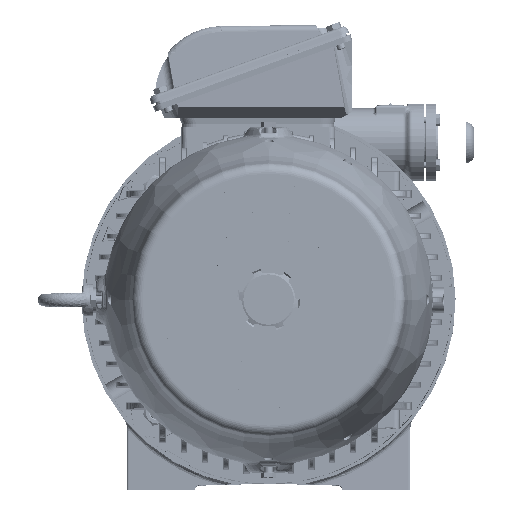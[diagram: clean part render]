
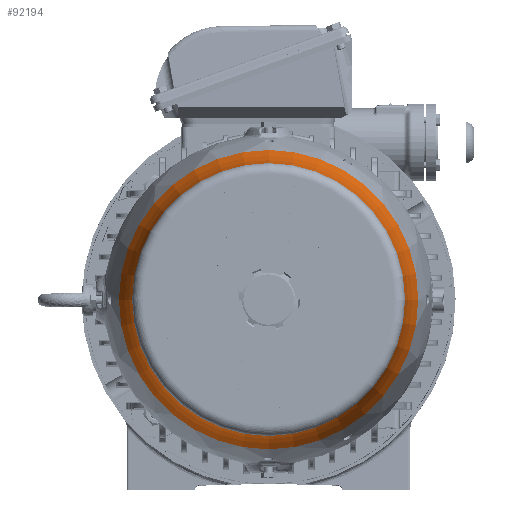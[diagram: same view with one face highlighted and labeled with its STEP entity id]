
A CAD part, top view. The second image highlights one B-rep face of the part: STEP entity #92194.
In plain terms, the highlighted toroidal (fillet/blend) face has major radius 308.616 mm and minor radius 180 mm.
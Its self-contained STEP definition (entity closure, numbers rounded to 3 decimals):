
#2081=TOROIDAL_SURFACE('',#99833,308.617,180.);
#18584=FACE_OUTER_BOUND('',#24097,.T.);
#24097=EDGE_LOOP('',(#71162,#71163,#71164,#71165,#71166,#71167));
#32317=CIRCLE('',#99830,129.927);
#32318=CIRCLE('',#99831,129.927);
#32320=CIRCLE('',#99834,142.487);
#32321=CIRCLE('',#99835,142.487);
#32322=CIRCLE('',#99836,180.);
#40242=VERTEX_POINT('',#169085);
#40243=VERTEX_POINT('',#169086);
#40244=VERTEX_POINT('',#169091);
#40245=VERTEX_POINT('',#169092);
#51246=EDGE_CURVE('',#40242,#40243,#32317,.T.);
#51247=EDGE_CURVE('',#40243,#40242,#32318,.T.);
#51249=EDGE_CURVE('',#40244,#40245,#32320,.T.);
#51250=EDGE_CURVE('',#40245,#40244,#32321,.T.);
#51251=EDGE_CURVE('',#40245,#40243,#32322,.T.);
#71162=ORIENTED_EDGE('',*,*,#51249,.F.);
#71163=ORIENTED_EDGE('',*,*,#51250,.F.);
#71164=ORIENTED_EDGE('',*,*,#51251,.T.);
#71165=ORIENTED_EDGE('',*,*,#51247,.T.);
#71166=ORIENTED_EDGE('',*,*,#51246,.T.);
#71167=ORIENTED_EDGE('',*,*,#51251,.F.);
#92194=ADVANCED_FACE('',(#18584),#2081,.F.);
#99830=AXIS2_PLACEMENT_3D('',#169087,#116395,#116396);
#99831=AXIS2_PLACEMENT_3D('',#169088,#116397,#116398);
#99833=AXIS2_PLACEMENT_3D('',#169090,#116401,#116402);
#99834=AXIS2_PLACEMENT_3D('',#169093,#116403,#116404);
#99835=AXIS2_PLACEMENT_3D('',#169094,#116405,#116406);
#99836=AXIS2_PLACEMENT_3D('',#169095,#116407,#116408);
#116395=DIRECTION('center_axis',(0.,0.,
-1.));
#116396=DIRECTION('ref_axis',(-1.,0.,0.));
#116397=DIRECTION('center_axis',(0.,0.,
-1.));
#116398=DIRECTION('ref_axis',(-1.,0.,0.));
#116401=DIRECTION('center_axis',(0.,0.,
-1.));
#116402=DIRECTION('ref_axis',(-1.,0.,0.));
#116403=DIRECTION('center_axis',(0.,0.,
-1.));
#116404=DIRECTION('ref_axis',(-1.,0.,0.));
#116405=DIRECTION('center_axis',(0.,0.,
-1.));
#116406=DIRECTION('ref_axis',(-1.,0.,0.));
#116407=DIRECTION('center_axis',(0.,1.,0.));
#116408=DIRECTION('ref_axis',(1.,0.,0.));
#169085=CARTESIAN_POINT('',(-129.927,0.,661.405));
#169086=CARTESIAN_POINT('',(129.927,0.,661.405));
#169087=CARTESIAN_POINT('Origin',(0.,0.,
661.405));
#169088=CARTESIAN_POINT('Origin',(0.,0.,
661.405));
#169090=CARTESIAN_POINT('Origin',(0.,0.,
683.087));
#169091=CARTESIAN_POINT('',(-142.487,0.,613.799));
#169092=CARTESIAN_POINT('',(142.487,0.,613.799));
#169093=CARTESIAN_POINT('Origin',(0.,0.,
613.799));
#169094=CARTESIAN_POINT('Origin',(0.,0.,
613.799));
#169095=CARTESIAN_POINT('Origin',(308.617,0.,
683.087));
